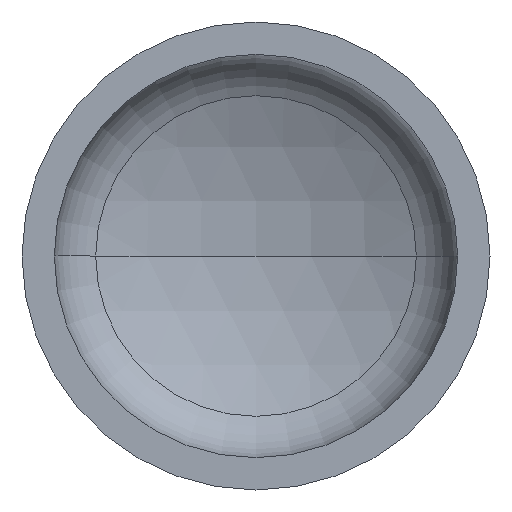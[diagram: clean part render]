
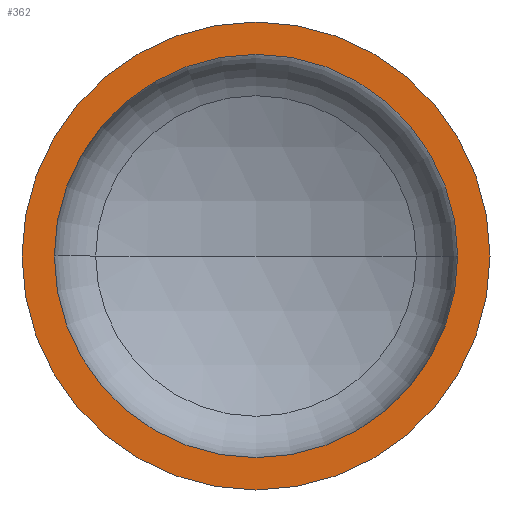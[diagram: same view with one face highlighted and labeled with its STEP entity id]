
A CAD part, front view. The second image highlights one B-rep face of the part: STEP entity #362.
In plain terms, the highlighted planar face has unit normal (0, -1, 0).
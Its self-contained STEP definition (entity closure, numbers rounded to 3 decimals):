
#1 = AXIS2_PLACEMENT_3D ( 'NONE', #291, #114, #149 ) ;
#7 = VERTEX_POINT ( 'NONE', #367 ) ;
#9 = EDGE_LOOP ( 'NONE', ( #37, #123 ) ) ;
#10 = VERTEX_POINT ( 'NONE', #284 ) ;
#15 = AXIS2_PLACEMENT_3D ( 'NONE', #269, #164, #165 ) ;
#17 = AXIS2_PLACEMENT_3D ( 'NONE', #390, #202, #205 ) ;
#27 = ORIENTED_EDGE ( 'NONE', *, *, #347, .F. ) ;
#37 = ORIENTED_EDGE ( 'NONE', *, *, #75, .T. ) ;
#43 = AXIS2_PLACEMENT_3D ( 'NONE', #172, #171, #170 ) ;
#52 = EDGE_LOOP ( 'NONE', ( #27, #60 ) ) ;
#60 = ORIENTED_EDGE ( 'NONE', *, *, #292, .F. ) ;
#73 = AXIS2_PLACEMENT_3D ( 'NONE', #227, #226, #342 ) ;
#75 = EDGE_CURVE ( 'NONE', #127, #10, #315, .T. ) ;
#87 = VERTEX_POINT ( 'NONE', #314 ) ;
#114 = DIRECTION ( 'NONE',  ( 0., 1., 0. ) ) ;
#123 = ORIENTED_EDGE ( 'NONE', *, *, #340, .T. ) ;
#127 = VERTEX_POINT ( 'NONE', #298 ) ;
#139 = FACE_BOUND ( 'NONE', #52, .T. ) ;
#145 = FACE_OUTER_BOUND ( 'NONE', #9, .T. ) ;
#149 = DIRECTION ( 'NONE',  ( -1., 0., 0. ) ) ;
#153 = CIRCLE ( 'NONE', #15, 474. ) ;
#164 = DIRECTION ( 'NONE',  ( 0., -1., 0. ) ) ;
#165 = DIRECTION ( 'NONE',  ( 1., 0., 0. ) ) ;
#170 = DIRECTION ( 'NONE',  ( 1., 0., 0. ) ) ;
#171 = DIRECTION ( 'NONE',  ( 0., -1., 0. ) ) ;
#172 = CARTESIAN_POINT ( 'NONE',  ( 0., 0., 0. ) ) ;
#202 = DIRECTION ( 'NONE',  ( 0., -1., 0. ) ) ;
#205 = DIRECTION ( 'NONE',  ( 1., 0., 0. ) ) ;
#226 = DIRECTION ( 'NONE',  ( 0., -1., 0. ) ) ;
#227 = CARTESIAN_POINT ( 'NONE',  ( 0., 0., 0. ) ) ;
#256 = CIRCLE ( 'NONE', #17, 550. ) ;
#269 = CARTESIAN_POINT ( 'NONE',  ( 0., 0., 0. ) ) ;
#284 = CARTESIAN_POINT ( 'NONE',  ( -550., 0., 0. ) ) ;
#291 = CARTESIAN_POINT ( 'NONE',  ( -550., 0., 0. ) ) ;
#292 = EDGE_CURVE ( 'NONE', #87, #7, #341, .T. ) ;
#298 = CARTESIAN_POINT ( 'NONE',  ( 550., 0., 0. ) ) ;
#314 = CARTESIAN_POINT ( 'NONE',  ( -474., 0., 0. ) ) ;
#315 = CIRCLE ( 'NONE', #73, 550. ) ;
#340 = EDGE_CURVE ( 'NONE', #10, #127, #256, .T. ) ;
#341 = CIRCLE ( 'NONE', #43, 474. ) ;
#342 = DIRECTION ( 'NONE',  ( 1., 0., 0. ) ) ;
#347 = EDGE_CURVE ( 'NONE', #7, #87, #153, .T. ) ;
#362 = ADVANCED_FACE ( 'NONE', ( #139, #145 ), #407, .F. ) ;
#367 = CARTESIAN_POINT ( 'NONE',  ( 474., 0., 0. ) ) ;
#390 = CARTESIAN_POINT ( 'NONE',  ( 0., 0., 0. ) ) ;
#407 = PLANE ( 'NONE',  #1 ) ;
